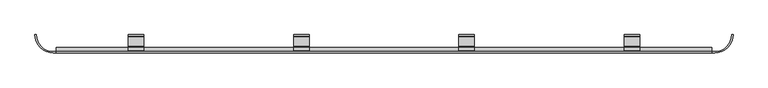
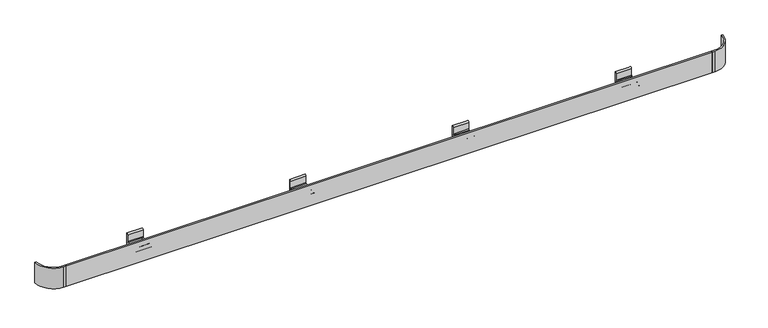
"""IFC4 building model written with IfcOpenShell, lengths in millimetres: railing geometry, Wall Guard-InPro-50SS."""

from ifc_helpers import new_model, si_unit, point, frame, frame_2d, origin, place, context, project, spatial, polyline, circle_curve, trimmed, segment, composite_curve, outline, extrude, source, transform, mapped, element, save


def railing_716fb8cc(model_context):
    return source(origin(), model_context, "Body", "SweptSolid", [
        extrude(outline(polyline([(-6431.9119023, 6718.5273535), (-6431.9119023, 6724.8773535), (-3409.3119023, 6724.8773535), (-3409.3119023, 6718.5273535), (-6431.9119023, 6718.5273535)])), frame((0.0, 0.0, 812.8), z_axis=(0.0, 0.0, 1.0), x_axis=(1.0, 0.0, 0.0)), (0.0, 0.0, 1.0), 101.6),
        extrude(outline(composite_curve([segment(polyline([(6728.2961935, 863.89464), (6743.9273535, 863.89464), (6743.9273535, 861.2378), (6728.2961935, 861.2378)]), True, "CONTINUOUS"), segment(trimmed(circle_curve(frame_2d((6728.2961935, 860.4758)), 0.762), [point((6728.2961935, 861.2378))], [point((6727.5341935, 860.4758))], True, "CARTESIAN"), True, "CONTINUOUS"), segment(polyline([(6727.5341935, 860.4758), (6727.5341935, 838.49464), (6724.8773535, 838.49464), (6724.8773535, 860.4758)]), True, "CONTINUOUS"), segment(trimmed(circle_curve(frame_2d((6728.2961935, 860.4758)), 3.41884), [point((6724.8773535, 860.4758))], [point((6728.2961935, 863.89464))], False, "CARTESIAN"), True, "CONTINUOUS")], self_intersect=False)), frame((-6431.9119023, 0.0, 0.0), z_axis=(1.0, 0.0, 0.0), x_axis=(0.0, 1.0, 0.0)), (0.0, 0.0, 1.0), 3022.6),
        extrude(outline(composite_curve([segment(trimmed(circle_curve(frame_2d((6730.5923535, 861.5354563)), 3.048), [point((6730.5923535, 858.4874563))], [point((6727.5841161, 861.0447306))], False, "CARTESIAN"), True, "CONTINUOUS"), segment(trimmed(circle_curve(frame_2d((6728.2961935, 860.7734563)), 0.762), [point((6727.5841161, 861.0447306))], [point((6728.2961935, 861.5354563))], False, "CARTESIAN"), True, "CONTINUOUS"), segment(polyline([(6728.2961935, 861.5354563), (6744.1813535, 861.5354563)]), True, "CONTINUOUS"), segment(trimmed(circle_curve(frame_2d((6744.1813535, 863.1864563)), 1.651), [point((6744.1813535, 861.5354563))], [point((6745.8323535, 863.1864563))], True, "CARTESIAN"), True, "CONTINUOUS"), segment(polyline([(6745.8323535, 863.1864563), (6745.8323535, 864.5834563)]), True, "CONTINUOUS"), segment(trimmed(circle_curve(frame_2d((6744.1813535, 864.5834563)), 1.651), [point((6745.8323535, 864.5834563))], [point((6744.1813535, 866.2344563))], True, "CARTESIAN"), True, "CONTINUOUS"), segment(polyline([(6744.1813535, 866.2344563), (6727.5443535, 866.2344563), (6727.5443535, 867.9616563)]), True, "CONTINUOUS"), segment(trimmed(circle_curve(frame_2d((6730.5923535, 867.9616563)), 3.048), [point((6727.5443535, 867.9616563))], [point((6730.5923535, 871.0096563))], False, "CARTESIAN"), True, "CONTINUOUS"), segment(polyline([(6730.5923535, 871.0096563), (6747.3563535, 871.0096563)]), True, "CONTINUOUS"), segment(trimmed(circle_curve(frame_2d((6747.3563535, 868.7236563)), 2.286), [point((6747.3563535, 871.0096563))], [point((6749.6423535, 868.7236563))], False, "CARTESIAN"), True, "CONTINUOUS"), segment(polyline([(6749.6423535, 868.7236563), (6749.6423535, 867.7330563)]), True, "CONTINUOUS"), segment(trimmed(circle_curve(frame_2d((6750.4043535, 867.7330563)), 0.762), [point((6749.6423535, 867.7330563))], [point((6750.4043535, 866.9710563))], True, "CARTESIAN"), True, "CONTINUOUS"), segment(polyline([(6750.4043535, 866.9710563), (6793.5843535, 866.9710563)]), True, "CONTINUOUS"), segment(trimmed(circle_curve(frame_2d((6793.5843535, 870.1460563)), 3.175), [point((6793.5843535, 866.9710563))], [point((6796.7593535, 870.1460563))], True, "CARTESIAN"), True, "CONTINUOUS"), segment(polyline([(6796.7593535, 870.1460563), (6796.7593535, 901.9976563)]), True, "CONTINUOUS"), segment(trimmed(circle_curve(frame_2d((6803.1093535, 901.9976563)), 6.35), [point((6796.7593535, 901.9976563))], [point((6803.1093535, 908.3476563))], False, "CARTESIAN"), True, "CONTINUOUS"), segment(polyline([(6803.1093535, 908.3476563), (6803.1093535, 819.4476563)]), True, "CONTINUOUS"), segment(trimmed(circle_curve(frame_2d((6803.1093535, 825.7976563)), 6.35), [point((6803.1093535, 819.4476563))], [point((6796.7593535, 825.7976563))], False, "CARTESIAN"), True, "CONTINUOUS"), segment(polyline([(6796.7593535, 825.7976563), (6796.7593535, 857.4460563)]), True, "CONTINUOUS"), segment(trimmed(circle_curve(frame_2d((6793.5843535, 857.4460563)), 3.175), [point((6796.7593535, 857.4460563))], [point((6793.5843535, 860.6210563))], True, "CARTESIAN"), True, "CONTINUOUS"), segment(polyline([(6793.5843535, 860.6210563), (6750.1694208, 860.6210563)]), True, "CONTINUOUS"), segment(trimmed(circle_curve(frame_2d((6750.1694208, 860.093989)), 0.5270673), [point((6750.1694208, 860.6210563))], [point((6749.6423535, 860.093989))], True, "CARTESIAN"), True, "CONTINUOUS"), segment(polyline([(6749.6423535, 860.093989), (6749.6423535, 859.1112657)]), True, "CONTINUOUS"), segment(trimmed(circle_curve(frame_2d((6749.0185441, 859.1112657)), 0.6238094), [point((6749.6423535, 859.1112657))], [point((6749.0185441, 858.4874563))], False, "CARTESIAN"), True, "CONTINUOUS"), segment(polyline([(6749.0185441, 858.4874563), (6730.5923535, 858.4874563)]), True, "CONTINUOUS")], self_intersect=False)), frame((-6099.6779077, 0.0, 0.0), z_axis=(1.0, 0.0, 0.0), x_axis=(0.0, 1.0, 0.0)), (0.0, 0.0, 1.0), 72.1320108),
        extrude(outline(composite_curve([segment(trimmed(circle_curve(frame_2d((6730.5923535, 861.5354563)), 3.048), [point((6730.5923535, 858.4874563))], [point((6727.5841161, 861.0447306))], False, "CARTESIAN"), True, "CONTINUOUS"), segment(trimmed(circle_curve(frame_2d((6728.2961935, 860.7734563)), 0.762), [point((6727.5841161, 861.0447306))], [point((6728.2961935, 861.5354563))], False, "CARTESIAN"), True, "CONTINUOUS"), segment(polyline([(6728.2961935, 861.5354563), (6744.1813535, 861.5354563)]), True, "CONTINUOUS"), segment(trimmed(circle_curve(frame_2d((6744.1813535, 863.1864563)), 1.651), [point((6744.1813535, 861.5354563))], [point((6745.8323535, 863.1864563))], True, "CARTESIAN"), True, "CONTINUOUS"), segment(polyline([(6745.8323535, 863.1864563), (6745.8323535, 864.5834563)]), True, "CONTINUOUS"), segment(trimmed(circle_curve(frame_2d((6744.1813535, 864.5834563)), 1.651), [point((6745.8323535, 864.5834563))], [point((6744.1813535, 866.2344563))], True, "CARTESIAN"), True, "CONTINUOUS"), segment(polyline([(6744.1813535, 866.2344563), (6727.5443535, 866.2344563), (6727.5443535, 867.9616563)]), True, "CONTINUOUS"), segment(trimmed(circle_curve(frame_2d((6730.5923535, 867.9616563)), 3.048), [point((6727.5443535, 867.9616563))], [point((6730.5923535, 871.0096563))], False, "CARTESIAN"), True, "CONTINUOUS"), segment(polyline([(6730.5923535, 871.0096563), (6747.3563535, 871.0096563)]), True, "CONTINUOUS"), segment(trimmed(circle_curve(frame_2d((6747.3563535, 868.7236563)), 2.286), [point((6747.3563535, 871.0096563))], [point((6749.6423535, 868.7236563))], False, "CARTESIAN"), True, "CONTINUOUS"), segment(polyline([(6749.6423535, 868.7236563), (6749.6423535, 867.7330563)]), True, "CONTINUOUS"), segment(trimmed(circle_curve(frame_2d((6750.4043535, 867.7330563)), 0.762), [point((6749.6423535, 867.7330563))], [point((6750.4043535, 866.9710563))], True, "CARTESIAN"), True, "CONTINUOUS"), segment(polyline([(6750.4043535, 866.9710563), (6793.5843535, 866.9710563)]), True, "CONTINUOUS"), segment(trimmed(circle_curve(frame_2d((6793.5843535, 870.1460563)), 3.175), [point((6793.5843535, 866.9710563))], [point((6796.7593535, 870.1460563))], True, "CARTESIAN"), True, "CONTINUOUS"), segment(polyline([(6796.7593535, 870.1460563), (6796.7593535, 901.9976563)]), True, "CONTINUOUS"), segment(trimmed(circle_curve(frame_2d((6803.1093535, 901.9976563)), 6.35), [point((6796.7593535, 901.9976563))], [point((6803.1093535, 908.3476563))], False, "CARTESIAN"), True, "CONTINUOUS"), segment(polyline([(6803.1093535, 908.3476563), (6803.1093535, 819.4476563)]), True, "CONTINUOUS"), segment(trimmed(circle_curve(frame_2d((6803.1093535, 825.7976563)), 6.35), [point((6803.1093535, 819.4476563))], [point((6796.7593535, 825.7976563))], False, "CARTESIAN"), True, "CONTINUOUS"), segment(polyline([(6796.7593535, 825.7976563), (6796.7593535, 857.4460563)]), True, "CONTINUOUS"), segment(trimmed(circle_curve(frame_2d((6793.5843535, 857.4460563)), 3.175), [point((6796.7593535, 857.4460563))], [point((6793.5843535, 860.6210563))], True, "CARTESIAN"), True, "CONTINUOUS"), segment(polyline([(6793.5843535, 860.6210563), (6750.1694208, 860.6210563)]), True, "CONTINUOUS"), segment(trimmed(circle_curve(frame_2d((6750.1694208, 860.093989)), 0.5270673), [point((6750.1694208, 860.6210563))], [point((6749.6423535, 860.093989))], True, "CARTESIAN"), True, "CONTINUOUS"), segment(polyline([(6749.6423535, 860.093989), (6749.6423535, 859.1112657)]), True, "CONTINUOUS"), segment(trimmed(circle_curve(frame_2d((6749.0185441, 859.1112657)), 0.6238094), [point((6749.6423535, 859.1112657))], [point((6749.0185441, 858.4874563))], False, "CARTESIAN"), True, "CONTINUOUS"), segment(polyline([(6749.0185441, 858.4874563), (6730.5923535, 858.4874563)]), True, "CONTINUOUS")], self_intersect=False)), frame((-3813.6779077, 0.0, 0.0), z_axis=(1.0, 0.0, 0.0), x_axis=(0.0, 1.0, 0.0)), (0.0, 0.0, 1.0), 72.1320108),
        extrude(outline(composite_curve([segment(trimmed(circle_curve(frame_2d((6730.5923535, 861.5354563)), 3.048), [point((6730.5923535, 858.4874563))], [point((6727.5841161, 861.0447306))], False, "CARTESIAN"), True, "CONTINUOUS"), segment(trimmed(circle_curve(frame_2d((6728.2961935, 860.7734563)), 0.762), [point((6727.5841161, 861.0447306))], [point((6728.2961935, 861.5354563))], False, "CARTESIAN"), True, "CONTINUOUS"), segment(polyline([(6728.2961935, 861.5354563), (6744.1813535, 861.5354563)]), True, "CONTINUOUS"), segment(trimmed(circle_curve(frame_2d((6744.1813535, 863.1864563)), 1.651), [point((6744.1813535, 861.5354563))], [point((6745.8323535, 863.1864563))], True, "CARTESIAN"), True, "CONTINUOUS"), segment(polyline([(6745.8323535, 863.1864563), (6745.8323535, 864.5834563)]), True, "CONTINUOUS"), segment(trimmed(circle_curve(frame_2d((6744.1813535, 864.5834563)), 1.651), [point((6745.8323535, 864.5834563))], [point((6744.1813535, 866.2344563))], True, "CARTESIAN"), True, "CONTINUOUS"), segment(polyline([(6744.1813535, 866.2344563), (6727.5443535, 866.2344563), (6727.5443535, 867.9616563)]), True, "CONTINUOUS"), segment(trimmed(circle_curve(frame_2d((6730.5923535, 867.9616563)), 3.048), [point((6727.5443535, 867.9616563))], [point((6730.5923535, 871.0096563))], False, "CARTESIAN"), True, "CONTINUOUS"), segment(polyline([(6730.5923535, 871.0096563), (6747.3563535, 871.0096563)]), True, "CONTINUOUS"), segment(trimmed(circle_curve(frame_2d((6747.3563535, 868.7236563)), 2.286), [point((6747.3563535, 871.0096563))], [point((6749.6423535, 868.7236563))], False, "CARTESIAN"), True, "CONTINUOUS"), segment(polyline([(6749.6423535, 868.7236563), (6749.6423535, 867.7330563)]), True, "CONTINUOUS"), segment(trimmed(circle_curve(frame_2d((6750.4043535, 867.7330563)), 0.762), [point((6749.6423535, 867.7330563))], [point((6750.4043535, 866.9710563))], True, "CARTESIAN"), True, "CONTINUOUS"), segment(polyline([(6750.4043535, 866.9710563), (6793.5843535, 866.9710563)]), True, "CONTINUOUS"), segment(trimmed(circle_curve(frame_2d((6793.5843535, 870.1460563)), 3.175), [point((6793.5843535, 866.9710563))], [point((6796.7593535, 870.1460563))], True, "CARTESIAN"), True, "CONTINUOUS"), segment(polyline([(6796.7593535, 870.1460563), (6796.7593535, 901.9976563)]), True, "CONTINUOUS"), segment(trimmed(circle_curve(frame_2d((6803.1093535, 901.9976563)), 6.35), [point((6796.7593535, 901.9976563))], [point((6803.1093535, 908.3476563))], False, "CARTESIAN"), True, "CONTINUOUS"), segment(polyline([(6803.1093535, 908.3476563), (6803.1093535, 819.4476563)]), True, "CONTINUOUS"), segment(trimmed(circle_curve(frame_2d((6803.1093535, 825.7976563)), 6.35), [point((6803.1093535, 819.4476563))], [point((6796.7593535, 825.7976563))], False, "CARTESIAN"), True, "CONTINUOUS"), segment(polyline([(6796.7593535, 825.7976563), (6796.7593535, 857.4460563)]), True, "CONTINUOUS"), segment(trimmed(circle_curve(frame_2d((6793.5843535, 857.4460563)), 3.175), [point((6796.7593535, 857.4460563))], [point((6793.5843535, 860.6210563))], True, "CARTESIAN"), True, "CONTINUOUS"), segment(polyline([(6793.5843535, 860.6210563), (6750.1694208, 860.6210563)]), True, "CONTINUOUS"), segment(trimmed(circle_curve(frame_2d((6750.1694208, 860.093989)), 0.5270673), [point((6750.1694208, 860.6210563))], [point((6749.6423535, 860.093989))], True, "CARTESIAN"), True, "CONTINUOUS"), segment(polyline([(6749.6423535, 860.093989), (6749.6423535, 859.1112657)]), True, "CONTINUOUS"), segment(trimmed(circle_curve(frame_2d((6749.0185441, 859.1112657)), 0.6238094), [point((6749.6423535, 859.1112657))], [point((6749.0185441, 858.4874563))], False, "CARTESIAN"), True, "CONTINUOUS"), segment(polyline([(6749.0185441, 858.4874563), (6730.5923535, 858.4874563)]), True, "CONTINUOUS")], self_intersect=False)), frame((-4575.6779077, 0.0, 0.0), z_axis=(1.0, 0.0, 0.0), x_axis=(0.0, 1.0, 0.0)), (0.0, 0.0, 1.0), 72.1320108),
        extrude(outline(composite_curve([segment(trimmed(circle_curve(frame_2d((6730.5923535, 861.5354563)), 3.048), [point((6730.5923535, 858.4874563))], [point((6727.5841161, 861.0447306))], False, "CARTESIAN"), True, "CONTINUOUS"), segment(trimmed(circle_curve(frame_2d((6728.2961935, 860.7734563)), 0.762), [point((6727.5841161, 861.0447306))], [point((6728.2961935, 861.5354563))], False, "CARTESIAN"), True, "CONTINUOUS"), segment(polyline([(6728.2961935, 861.5354563), (6744.1813535, 861.5354563)]), True, "CONTINUOUS"), segment(trimmed(circle_curve(frame_2d((6744.1813535, 863.1864563)), 1.651), [point((6744.1813535, 861.5354563))], [point((6745.8323535, 863.1864563))], True, "CARTESIAN"), True, "CONTINUOUS"), segment(polyline([(6745.8323535, 863.1864563), (6745.8323535, 864.5834563)]), True, "CONTINUOUS"), segment(trimmed(circle_curve(frame_2d((6744.1813535, 864.5834563)), 1.651), [point((6745.8323535, 864.5834563))], [point((6744.1813535, 866.2344563))], True, "CARTESIAN"), True, "CONTINUOUS"), segment(polyline([(6744.1813535, 866.2344563), (6727.5443535, 866.2344563), (6727.5443535, 867.9616563)]), True, "CONTINUOUS"), segment(trimmed(circle_curve(frame_2d((6730.5923535, 867.9616563)), 3.048), [point((6727.5443535, 867.9616563))], [point((6730.5923535, 871.0096563))], False, "CARTESIAN"), True, "CONTINUOUS"), segment(polyline([(6730.5923535, 871.0096563), (6747.3563535, 871.0096563)]), True, "CONTINUOUS"), segment(trimmed(circle_curve(frame_2d((6747.3563535, 868.7236563)), 2.286), [point((6747.3563535, 871.0096563))], [point((6749.6423535, 868.7236563))], False, "CARTESIAN"), True, "CONTINUOUS"), segment(polyline([(6749.6423535, 868.7236563), (6749.6423535, 867.7330563)]), True, "CONTINUOUS"), segment(trimmed(circle_curve(frame_2d((6750.4043535, 867.7330563)), 0.762), [point((6749.6423535, 867.7330563))], [point((6750.4043535, 866.9710563))], True, "CARTESIAN"), True, "CONTINUOUS"), segment(polyline([(6750.4043535, 866.9710563), (6793.5843535, 866.9710563)]), True, "CONTINUOUS"), segment(trimmed(circle_curve(frame_2d((6793.5843535, 870.1460563)), 3.175), [point((6793.5843535, 866.9710563))], [point((6796.7593535, 870.1460563))], True, "CARTESIAN"), True, "CONTINUOUS"), segment(polyline([(6796.7593535, 870.1460563), (6796.7593535, 901.9976563)]), True, "CONTINUOUS"), segment(trimmed(circle_curve(frame_2d((6803.1093535, 901.9976563)), 6.35), [point((6796.7593535, 901.9976563))], [point((6803.1093535, 908.3476563))], False, "CARTESIAN"), True, "CONTINUOUS"), segment(polyline([(6803.1093535, 908.3476563), (6803.1093535, 819.4476563)]), True, "CONTINUOUS"), segment(trimmed(circle_curve(frame_2d((6803.1093535, 825.7976563)), 6.35), [point((6803.1093535, 819.4476563))], [point((6796.7593535, 825.7976563))], False, "CARTESIAN"), True, "CONTINUOUS"), segment(polyline([(6796.7593535, 825.7976563), (6796.7593535, 857.4460563)]), True, "CONTINUOUS"), segment(trimmed(circle_curve(frame_2d((6793.5843535, 857.4460563)), 3.175), [point((6796.7593535, 857.4460563))], [point((6793.5843535, 860.6210563))], True, "CARTESIAN"), True, "CONTINUOUS"), segment(polyline([(6793.5843535, 860.6210563), (6750.1694208, 860.6210563)]), True, "CONTINUOUS"), segment(trimmed(circle_curve(frame_2d((6750.1694208, 860.093989)), 0.5270673), [point((6750.1694208, 860.6210563))], [point((6749.6423535, 860.093989))], True, "CARTESIAN"), True, "CONTINUOUS"), segment(polyline([(6749.6423535, 860.093989), (6749.6423535, 859.1112657)]), True, "CONTINUOUS"), segment(trimmed(circle_curve(frame_2d((6749.0185441, 859.1112657)), 0.6238094), [point((6749.6423535, 859.1112657))], [point((6749.0185441, 858.4874563))], False, "CARTESIAN"), True, "CONTINUOUS"), segment(polyline([(6749.0185441, 858.4874563), (6730.5923535, 858.4874563)]), True, "CONTINUOUS")], self_intersect=False)), frame((-5337.6779077, 0.0, 0.0), z_axis=(1.0, 0.0, 0.0), x_axis=(0.0, 1.0, 0.0)), (0.0, 0.0, 1.0), 72.1320108),
        extrude(outline(composite_curve([segment(trimmed(circle_curve(frame_2d((6730.5923535, 861.5354563)), 3.048), [point((6730.5923535, 858.4874563))], [point((6727.5841161, 861.0447306))], False, "CARTESIAN"), True, "CONTINUOUS"), segment(trimmed(circle_curve(frame_2d((6728.2961935, 860.7734563)), 0.762), [point((6727.5841161, 861.0447306))], [point((6728.2961935, 861.5354563))], False, "CARTESIAN"), True, "CONTINUOUS"), segment(polyline([(6728.2961935, 861.5354563), (6744.1813535, 861.5354563)]), True, "CONTINUOUS"), segment(trimmed(circle_curve(frame_2d((6744.1813535, 863.1864563)), 1.651), [point((6744.1813535, 861.5354563))], [point((6745.8323535, 863.1864563))], True, "CARTESIAN"), True, "CONTINUOUS"), segment(polyline([(6745.8323535, 863.1864563), (6745.8323535, 864.5834563)]), True, "CONTINUOUS"), segment(trimmed(circle_curve(frame_2d((6744.1813535, 864.5834563)), 1.651), [point((6745.8323535, 864.5834563))], [point((6744.1813535, 866.2344563))], True, "CARTESIAN"), True, "CONTINUOUS"), segment(polyline([(6744.1813535, 866.2344563), (6727.5443535, 866.2344563), (6727.5443535, 867.9616563)]), True, "CONTINUOUS"), segment(trimmed(circle_curve(frame_2d((6730.5923535, 867.9616563)), 3.048), [point((6727.5443535, 867.9616563))], [point((6730.5923535, 871.0096563))], False, "CARTESIAN"), True, "CONTINUOUS"), segment(polyline([(6730.5923535, 871.0096563), (6747.3563535, 871.0096563)]), True, "CONTINUOUS"), segment(trimmed(circle_curve(frame_2d((6747.3563535, 868.7236563)), 2.286), [point((6747.3563535, 871.0096563))], [point((6749.6423535, 868.7236563))], False, "CARTESIAN"), True, "CONTINUOUS"), segment(polyline([(6749.6423535, 868.7236563), (6749.6423535, 867.7330563)]), True, "CONTINUOUS"), segment(trimmed(circle_curve(frame_2d((6750.4043535, 867.7330563)), 0.762), [point((6749.6423535, 867.7330563))], [point((6750.4043535, 866.9710563))], True, "CARTESIAN"), True, "CONTINUOUS"), segment(polyline([(6750.4043535, 866.9710563), (6793.5843535, 866.9710563)]), True, "CONTINUOUS"), segment(trimmed(circle_curve(frame_2d((6793.5843535, 870.1460563)), 3.175), [point((6793.5843535, 866.9710563))], [point((6796.7593535, 870.1460563))], True, "CARTESIAN"), True, "CONTINUOUS"), segment(polyline([(6796.7593535, 870.1460563), (6796.7593535, 901.9976563)]), True, "CONTINUOUS"), segment(trimmed(circle_curve(frame_2d((6803.1093535, 901.9976563)), 6.35), [point((6796.7593535, 901.9976563))], [point((6803.1093535, 908.3476563))], False, "CARTESIAN"), True, "CONTINUOUS"), segment(polyline([(6803.1093535, 908.3476563), (6803.1093535, 819.4476563)]), True, "CONTINUOUS"), segment(trimmed(circle_curve(frame_2d((6803.1093535, 825.7976563)), 6.35), [point((6803.1093535, 819.4476563))], [point((6796.7593535, 825.7976563))], False, "CARTESIAN"), True, "CONTINUOUS"), segment(polyline([(6796.7593535, 825.7976563), (6796.7593535, 857.4460563)]), True, "CONTINUOUS"), segment(trimmed(circle_curve(frame_2d((6793.5843535, 857.4460563)), 3.175), [point((6796.7593535, 857.4460563))], [point((6793.5843535, 860.6210563))], True, "CARTESIAN"), True, "CONTINUOUS"), segment(polyline([(6793.5843535, 860.6210563), (6750.1694208, 860.6210563)]), True, "CONTINUOUS"), segment(trimmed(circle_curve(frame_2d((6750.1694208, 860.093989)), 0.5270673), [point((6750.1694208, 860.6210563))], [point((6749.6423535, 860.093989))], True, "CARTESIAN"), True, "CONTINUOUS"), segment(polyline([(6749.6423535, 860.093989), (6749.6423535, 859.1112657)]), True, "CONTINUOUS"), segment(trimmed(circle_curve(frame_2d((6749.0185441, 859.1112657)), 0.6238094), [point((6749.6423535, 859.1112657))], [point((6749.0185441, 858.4874563))], False, "CARTESIAN"), True, "CONTINUOUS"), segment(polyline([(6749.0185441, 858.4874563), (6730.5923535, 858.4874563)]), True, "CONTINUOUS")], self_intersect=False)), frame((-6099.6779077, 0.0, 0.0), z_axis=(1.0, 0.0, 0.0), x_axis=(0.0, 1.0, 0.0)), (0.0, 0.0, 1.0), 72.1320108),
        extrude(outline(composite_curve([segment(trimmed(circle_curve(frame_2d((-3395.6594023, 6803.1093535)), 78.232), [point((-3395.6594023, 6724.8773535))], [point((-3317.4274023, 6803.1093535))], True, "CARTESIAN"), True, "CONTINUOUS"), segment(polyline([(-3317.4274023, 6803.1093535), (-3311.0774023, 6803.1093535)]), True, "CONTINUOUS"), segment(trimmed(circle_curve(frame_2d((-3395.6594023, 6803.1093535)), 84.582), [point((-3311.0774023, 6803.1093535))], [point((-3395.6594023, 6718.5273535))], False, "CARTESIAN"), True, "CONTINUOUS"), segment(polyline([(-3395.6594023, 6718.5273535), (-3409.3119023, 6718.5273535), (-3409.3119023, 6724.8773535), (-3395.6594023, 6724.8773535)]), True, "CONTINUOUS")], self_intersect=False)), frame((0.0, 0.0, 812.8), z_axis=(0.0, 0.0, 1.0), x_axis=(1.0, 0.0, 0.0)), (0.0, 0.0, 1.0), 101.6),
        extrude(outline(composite_curve([segment(trimmed(circle_curve(frame_2d((-6445.5644023, 6803.1093535)), 84.582), [point((-6445.5644023, 6718.5273535))], [point((-6530.1464023, 6803.1093535))], False, "CARTESIAN"), True, "CONTINUOUS"), segment(polyline([(-6530.1464023, 6803.1093535), (-6523.7964023, 6803.1093535)]), True, "CONTINUOUS"), segment(trimmed(circle_curve(frame_2d((-6445.5644023, 6803.1093535)), 78.232), [point((-6523.7964023, 6803.1093535))], [point((-6445.5644023, 6724.8773535))], True, "CARTESIAN"), True, "CONTINUOUS"), segment(polyline([(-6445.5644023, 6724.8773535), (-6431.9119023, 6724.8773535), (-6431.9119023, 6718.5273535), (-6445.5644023, 6718.5273535)]), True, "CONTINUOUS")], self_intersect=False)), frame((0.0, 0.0, 812.8), z_axis=(0.0, 0.0, 1.0), x_axis=(1.0, 0.0, 0.0)), (0.0, 0.0, 1.0), 101.6),
    ])


if __name__ == "__main__":
    model = new_model("IFC4")
    model_context = context("Model", 3, world=origin())
    ifc_project = project(units=[si_unit("LENGTHUNIT", "METRE", prefix="MILLI")], contexts=[model_context])
    site = spatial("IfcSite", under=ifc_project)
    building = spatial("IfcBuilding", under=site)
    placement = place(None, origin())
    railing_shape = railing_716fb8cc(model_context)
    element("IfcRailing", 1, ObjectType="Wall Guard-InPro-50SS", at=placement, inside=building, context=model_context, shape_type="MappedRepresentation", body=[
        mapped(railing_shape, transform((0.0, 0.0, 0.0), x_axis=(1.0, 0.0, 0.0), y_axis=(0.0, 1.0, 0.0), z_axis=(0.0, 0.0, 1.0))),
    ])
    save(model, "model.ifc")
